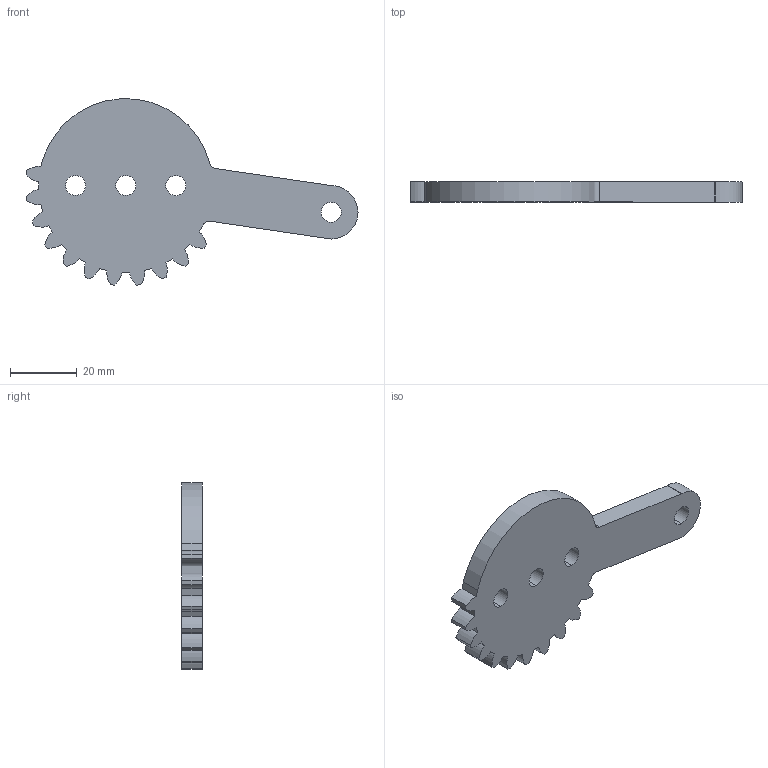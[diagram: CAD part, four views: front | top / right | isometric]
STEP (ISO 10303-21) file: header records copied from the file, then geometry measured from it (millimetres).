
FILE_DESCRIPTION (( 'STEP AP214' ), '1' );
FILE_NAME ('Gear Link 2.STEP', '2026-04-30T16:22:10', ( '' ), ( '' ), 'SwSTEP 2.0', 'SolidWorks 2022', '' );
FILE_SCHEMA (( 'AUTOMOTIVE_DESIGN' ));
Length unit declared in the file: millimetre
Products named in the file (1): Gear Link 2
Bounding box: 99.28 x 6 x 55.77 mm (x, y, z)
Volume: 17044.5 mm3; surface area: 7984.1 mm2
Topology: 1 solids, 1 shells, 64 faces, 186 edges, 124 vertices
Faces by surface type: bspline 44, cylinder 16, plane 4
Entity records: 2368 total; most frequent: CARTESIAN_POINT 899, ORIENTED_EDGE 372, EDGE_CURVE 186, DIRECTION 172, VERTEX_POINT 124, B_SPLINE_CURVE_WITH_KNOTS 88, EDGE_LOOP 72, LINE 66
